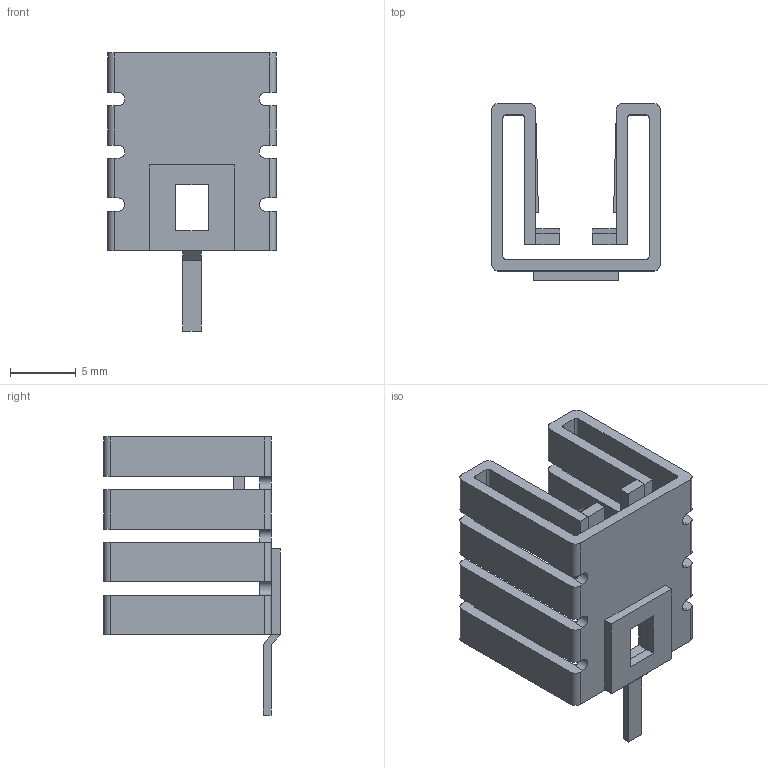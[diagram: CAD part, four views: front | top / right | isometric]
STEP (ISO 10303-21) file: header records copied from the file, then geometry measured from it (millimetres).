
FILE_DESCRIPTION(('STEP AP242'),'1');
FILE_NAME('v8508h.stp','2025-05-04T08:19:28',('TraceParts'),('TraceParts S.A.'),'Spatial InterOp 3D',' ',' ');
FILE_SCHEMA(('AP242_MANAGED_MODEL_BASED_3D_ENGINEERING_MIM_LF {1 0 10303 442 1 1 4}'));
Length unit declared in the file: millimetre
Products named in the file (1): v8508h_1
Bounding box: 12.8 x 13.4 x 21.1 mm (x, y, z)
Volume: 594.3 mm3; surface area: 1812.8 mm2
Topology: 5 solids, 5 shells, 168 faces, 474 edges, 316 vertices
Faces by surface type: plane 114, cylinder 54
Entity records: 5465 total; most frequent: CARTESIAN_POINT 963, ORIENTED_EDGE 948, DIRECTION 928, EDGE_CURVE 474, LINE 366, VECTOR 366, VERTEX_POINT 316, AXIS2_PLACEMENT_3D 281
